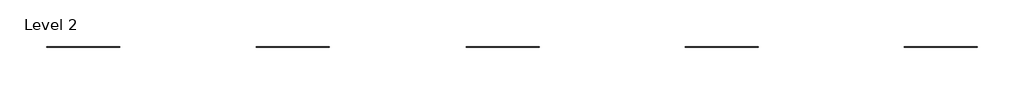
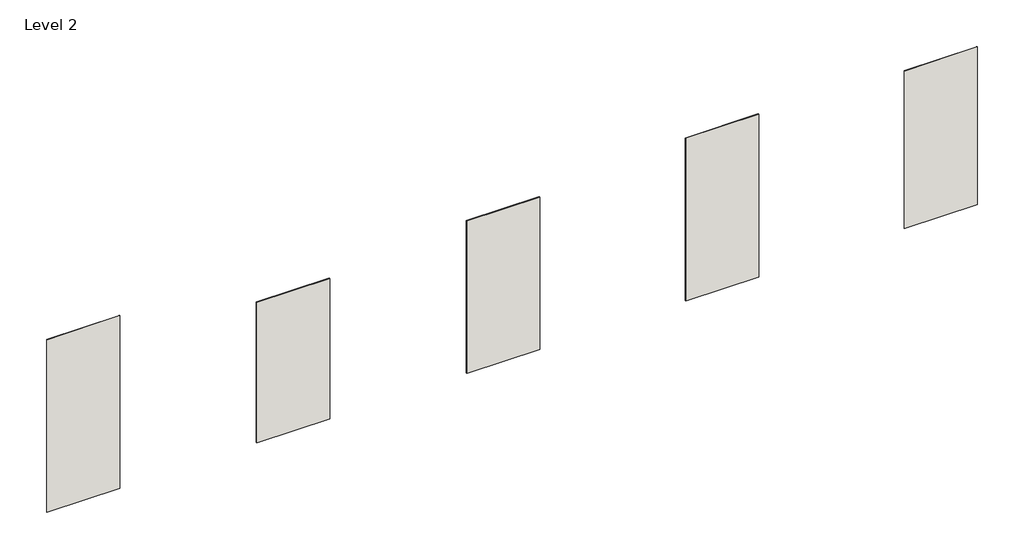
# One storey: 5 walls.
"""IFC4 building model written with IfcOpenShell, lengths in millimetres."""

import ifcopenshell
import ifcopenshell.guid

model = None  # the IFC model being written
_history = None  # IfcOwnerHistory: only IFC2X3 demands one
_inside = {}  # id of a spatial element -> (the spatial element, [elements in it])
_under = {}  # id of a project, library or spatial element -> (it, [spatial elements below it])
_declared = {}  # id of a project -> (the project, [libraries it declares])
_typed = {}  # id of a type object -> (the type object, [elements of that type])
_made_of = {}  # id of a material, layer set ... -> (it, [elements and type objects made of it])


def new_model(schema):
    """Start an empty IFC model of exactly this schema.

    Asked for "IFC4X3", IfcOpenShell would pick the latest addendum, in which some entities
    have other attributes; the version numbers below select the first issue.
    IFC2X3 requires an IfcOwnerHistory on every rooted entity: one is made here for all.
    """
    global model, _history
    if schema == "IFC4X3":
        model = ifcopenshell.file(schema_version=(4, 3, 0, 0))
    else:
        model = ifcopenshell.file(schema=schema)
    _inside.clear()
    _under.clear()
    _declared.clear()
    _typed.clear()
    _made_of.clear()
    _history = None
    if model.schema == "IFC2X3":
        org = make("IfcOrganization", Name="unknown")
        user = make(
            "IfcPersonAndOrganization",
            ThePerson=make("IfcPerson", FamilyName="unknown"),
            TheOrganization=org,
        )
        app = make(
            "IfcApplication",
            ApplicationDeveloper=org,
            Version="unknown",
            ApplicationFullName="unknown",
            ApplicationIdentifier="unknown",
        )
        _history = make(
            "IfcOwnerHistory",
            OwningUser=user,
            OwningApplication=app,
            ChangeAction="ADDED",
            CreationDate=0,
        )
    return model


def make(cls, **values):
    """One entity of the class cls with the attributes given. An attribute that is None is left unset."""
    return model.create_entity(
        cls, **{name: value for name, value in values.items() if value is not None}
    )


def rooted(cls, **values):
    """An entity with a GlobalId (a new one), such as an element, a storey or a relation."""
    return make(cls, GlobalId=ifcopenshell.guid.new(), OwnerHistory=_history, **values)


def si_unit(unit_type, name, prefix=None):
    """IfcSIUnit, for example si_unit("LENGTHUNIT", "METRE", prefix="MILLI")."""
    return make("IfcSIUnit", UnitType=unit_type, Prefix=prefix, Name=name)


def assignment(units):
    """IfcUnitAssignment: the units of a project."""
    return None if units is None else make("IfcUnitAssignment", Units=units)


def point(xyz):
    """IfcCartesianPoint."""
    return None if xyz is None else make("IfcCartesianPoint", Coordinates=xyz)


def direction(xyz):
    """IfcDirection."""
    return None if xyz is None else make("IfcDirection", DirectionRatios=xyz)


def frame(location, z_axis=None, x_axis=None):
    """IfcAxis2Placement3D, a coordinate frame: its origin and axes. An axis left out is left unset."""
    return make(
        "IfcAxis2Placement3D",
        Location=point(location),
        Axis=direction(z_axis),
        RefDirection=direction(x_axis),
    )


def origin():
    """The frame at (0, 0, 0) with its axes left unset."""
    return frame((0.0, 0.0, 0.0))


def place(relative_to, where):
    """IfcLocalPlacement: puts the frame where relative to a parent placement (None: the world)."""
    return make(
        "IfcLocalPlacement", PlacementRelTo=relative_to, RelativePlacement=where
    )


def context(
    kind, dimensions, precision=None, world=None, true_north=None, identifier=None
):
    """IfcGeometricRepresentationContext, for example the 3D "Model" context."""
    return make(
        "IfcGeometricRepresentationContext",
        ContextIdentifier=identifier,
        ContextType=kind,
        CoordinateSpaceDimension=dimensions,
        Precision=precision,
        WorldCoordinateSystem=world,
        TrueNorth=true_north,
    )


def project(units=None, contexts=None):
    """IfcProject with its units and contexts."""
    return rooted(
        "IfcProject",
        Name="project",
        RepresentationContexts=contexts,
        UnitsInContext=assignment(units),
    )


def spatial(cls, under=None, at=None, **own):
    """A site, building, storey or space (cls), placed at a placement, below another one or the project."""
    s = rooted(cls, ObjectPlacement=at, **own)
    if under is not None:
        _under.setdefault(under.id(), (under, []))[1].append(s)
    return s


def polyline(points):
    """IfcPolyline through the points."""
    return make("IfcPolyline", Points=[point(p) for p in points])


def outline(outer, holes=None, kind="AREA"):
    """IfcArbitraryClosedProfileDef: a profile drawn as a closed curve; with holes, ...WithVoids."""
    if holes is None:
        return make("IfcArbitraryClosedProfileDef", ProfileType=kind, OuterCurve=outer)
    return make(
        "IfcArbitraryProfileDefWithVoids",
        ProfileType=kind,
        OuterCurve=outer,
        InnerCurves=holes,
    )


def extrude(swept, where, along, depth):
    """IfcExtrudedAreaSolid: the profile swept, set in the frame where, extruded along a direction by depth."""
    return make(
        "IfcExtrudedAreaSolid",
        SweptArea=swept,
        Position=where,
        ExtrudedDirection=direction(along),
        Depth=depth,
    )


def shape(context_of_items, identifier, shape_type, items):
    """IfcShapeRepresentation: the items that make up one representation, for example the "Body"."""
    return make(
        "IfcShapeRepresentation",
        ContextOfItems=context_of_items,
        RepresentationIdentifier=identifier,
        RepresentationType=shape_type,
        Items=items,
    )


def made_of(thing, what):
    """Note that an element or type object is made of a material, layer set ...; save() writes the relation."""
    if what is not None:
        _made_of.setdefault(what.id(), (what, []))[1].append(thing)
    return thing


def element(
    cls,
    number,
    at=None,
    inside=None,
    cuts=None,
    type_object=None,
    material=None,
    context=None,
    identifier="Body",
    shape_type=None,
    held_by="IfcProductDefinitionShape",
    body=None,
    shapes=None,
    **own,
):
    """One element of the class cls, such as IfcWall. Its Tag is "e" and its number.

    at: its placement. inside: the storey or other place that contains it. cuts: it is an
    opening in that element (IfcRelVoidsElement). A single representation is given by context,
    identifier, shape_type and body (its items); several are given by shapes. held_by: the class
    of the entity that holds the representations. save() writes the other relations.
    """
    e = rooted(cls, Tag="e%d" % number, ObjectPlacement=at, **own)
    if body is not None:
        shapes = [shape(context, identifier, shape_type, body)]
    if shapes is not None:
        e.Representation = make(held_by, Representations=shapes)
    if inside is not None:
        _inside.setdefault(inside.id(), (inside, []))[1].append(e)
    if cuts is not None:
        rooted(
            "IfcRelVoidsElement", RelatingBuildingElement=cuts, RelatedOpeningElement=e
        )
    if type_object is not None:
        _typed.setdefault(type_object.id(), (type_object, []))[1].append(e)
    return made_of(e, material)


def aggregate(whole, parts):
    """IfcRelAggregates: a whole, such as a stair, and the parts it consists of."""
    return rooted("IfcRelAggregates", RelatingObject=whole, RelatedObjects=parts)


def save(model, path):
    """Write the relations noted so far, then the file.

    IfcRelAggregates (storeys below a building ...), IfcRelContainedInSpatialStructure (elements
    in a storey), IfcRelDefinesByType, IfcRelAssociatesMaterial and IfcRelDeclares: one each for
    every whole, place, type object, material and project.
    """
    for whole, parts in _under.values():
        aggregate(whole, parts)
    for where, things in _inside.values():
        rooted(
            "IfcRelContainedInSpatialStructure",
            RelatedElements=things,
            RelatingStructure=where,
        )
    for kind, things in _typed.values():
        rooted("IfcRelDefinesByType", RelatedObjects=things, RelatingType=kind)
    for what, things in _made_of.values():
        rooted("IfcRelAssociatesMaterial", RelatedObjects=things, RelatingMaterial=what)
    for by, libraries in _declared.values():
        rooted("IfcRelDeclares", RelatingContext=by, RelatedDefinitions=libraries)
    model.write(path)


model = new_model("IFC4")

# Units and contexts
model_context = context("Model", 3, world=origin())
ifc_project = project(units=[si_unit("LENGTHUNIT", "METRE", prefix="MILLI")], contexts=[model_context])

# Site, building, storey
site = spatial("IfcSite", under=ifc_project)
building = spatial("IfcBuilding", under=site)
storey = spatial("IfcBuildingStorey", under=building, Name="Level 2", Elevation=4000.0)

# Walls
placement = place(None, origin())
element("IfcWall", 1, ObjectType="Windproof 12mm 1200x2830", at=placement, inside=storey, context=model_context, shape_type="SweptSolid", body=[
    extrude(outline(polyline([(-82.735738, -1243.2130659), (-1282.735738, -1243.2130659), (-1282.735738, -1231.2130659), (-82.735738, -1231.2130659), (-82.735738, -1243.2130659)])), frame((0.0, 0.0, -417.1974511), z_axis=(0.0, 0.0, 1.0), x_axis=(1.0, 0.0, 0.0)), (0.0, 0.0, 1.0), 2830.0),
])
element("IfcWall", 2, ObjectType="Windproof 12mm 1200x2650", at=placement, inside=storey, context=model_context, shape_type="SweptSolid", body=[
    extrude(outline(polyline([(-3682.735738, -1243.2130659), (-4882.735738, -1243.2130659), (-4882.735738, -1231.2130659), (-3682.735738, -1231.2130659), (-3682.735738, -1243.2130659)])), frame((0.0, 0.0, -417.1974511), z_axis=(0.0, 0.0, 1.0), x_axis=(1.0, 0.0, 0.0)), (0.0, 0.0, 1.0), 2650.0),
])
element("IfcWall", 3, ObjectType="Windproof 12mm 1200x2440", at=placement, inside=storey, context=model_context, shape_type="SweptSolid", body=[
    extrude(outline(polyline([(-7132.735738, -1243.2130659), (-8332.735738, -1243.2130659), (-8332.735738, -1231.2130659), (-7132.735738, -1231.2130659), (-7132.735738, -1243.2130659)])), frame((0.0, 0.0, -417.1974511), z_axis=(0.0, 0.0, 1.0), x_axis=(1.0, 0.0, 0.0)), (0.0, 0.0, 1.0), 2440.0),
])
element("IfcWall", 4, ObjectType="Windproof 12mm 1200x3000", at=placement, inside=storey, context=model_context, shape_type="SweptSolid", body=[
    extrude(outline(polyline([(-10582.735738, -1243.2130659), (-11782.735738, -1243.2130659), (-11782.735738, -1231.2130659), (-10582.735738, -1231.2130659), (-10582.735738, -1243.2130659)])), frame((0.0, 0.0, -417.1974511), z_axis=(0.0, 0.0, 1.0), x_axis=(1.0, 0.0, 0.0)), (0.0, 0.0, 1.0), 3000.0),
])
element("IfcWall", 5, ObjectType="Windproof 12mm 1200x2740", at=placement, inside=storey, context=model_context, shape_type="SweptSolid", body=[
    extrude(outline(polyline([(3517.264262, -1243.2130659), (2317.264262, -1243.2130659), (2317.264262, -1231.2130659), (3517.264262, -1231.2130659), (3517.264262, -1243.2130659)])), frame((0.0, 0.0, -417.1974511), z_axis=(0.0, 0.0, 1.0), x_axis=(1.0, 0.0, 0.0)), (0.0, 0.0, 1.0), 2740.0),
])

save(model, "model.ifc")
